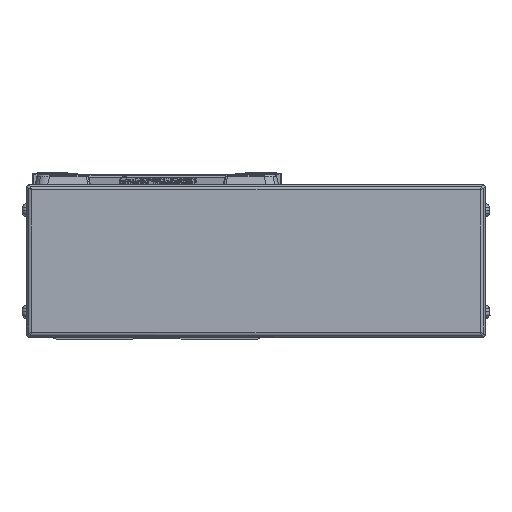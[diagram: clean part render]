
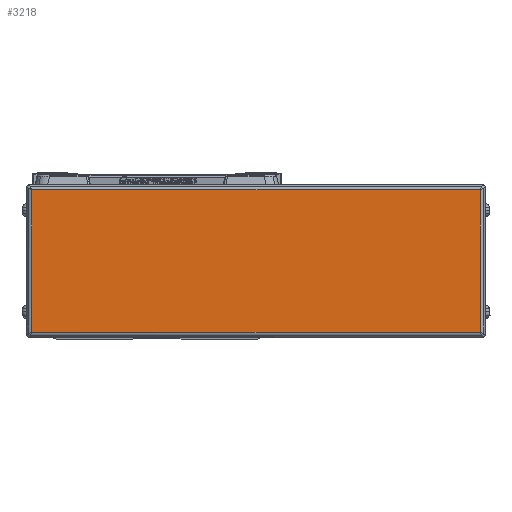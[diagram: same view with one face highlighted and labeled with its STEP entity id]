
A CAD part, left-side view. The second image highlights one B-rep face of the part: STEP entity #3218.
In plain terms, the highlighted planar face has unit normal (-1, 0, 0).
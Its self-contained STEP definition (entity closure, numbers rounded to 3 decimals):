
#3218=ADVANCED_FACE('',(#7651),#7652,.T.);
#7651=FACE_OUTER_BOUND('',#13826,.T.);
#7652=PLANE('',#13827);
#13826=EDGE_LOOP('',(#23373,#23374,#23375,#23376));
#13827=AXIS2_PLACEMENT_3D('',#23377,#23378,#23379);
#23373=ORIENTED_EDGE('',*,*,#37984,.F.);
#23374=ORIENTED_EDGE('',*,*,#37985,.F.);
#23375=ORIENTED_EDGE('',*,*,#37986,.F.);
#23376=ORIENTED_EDGE('',*,*,#37987,.F.);
#23377=CARTESIAN_POINT('',(-616.,-39.,0.));
#23378=DIRECTION('',(-1.0,0.,0.));
#23379=DIRECTION('',(0.,0.,1.0));
#37984=EDGE_CURVE('',#46636,#46637,#46638,.T.);
#37985=EDGE_CURVE('',#46231,#46636,#46639,.T.);
#37986=EDGE_CURVE('',#46640,#46231,#46641,.T.);
#37987=EDGE_CURVE('',#46637,#46640,#46642,.T.);
#46231=VERTEX_POINT('',#57648);
#46636=VERTEX_POINT('',#58231);
#46637=VERTEX_POINT('',#58232);
#46638=LINE('',#58233,#58234);
#46639=LINE('',#58235,#58236);
#46640=VERTEX_POINT('',#58237);
#46641=LINE('',#58238,#58239);
#46642=LINE('',#58240,#58241);
#57648=CARTESIAN_POINT('',(-616.0,49.2,-28.));
#58231=CARTESIAN_POINT('',(-616.,49.2,28.));
#58232=CARTESIAN_POINT('',(-616.,-127.2,28.));
#58233=CARTESIAN_POINT('',(-616.,-39.,28.));
#58234=VECTOR('',#68534,10.0);
#58235=CARTESIAN_POINT('',(-616.,49.2,0.));
#58236=VECTOR('',#68535,10.0);
#58237=CARTESIAN_POINT('',(-616.,-127.2,-28.));
#58238=CARTESIAN_POINT('',(-616.,-39.,-28.));
#58239=VECTOR('',#68536,10.0);
#58240=CARTESIAN_POINT('',(-616.,-127.2,0.));
#58241=VECTOR('',#68537,10.0);
#68534=DIRECTION('',(0.,-1.0,0.));
#68535=DIRECTION('',(0.,0.,1.0));
#68536=DIRECTION('',(0.,1.0,0.));
#68537=DIRECTION('',(0.,0.,-1.0));
